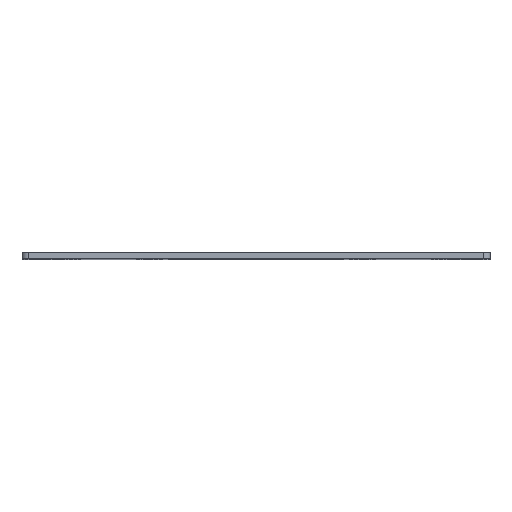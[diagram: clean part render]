
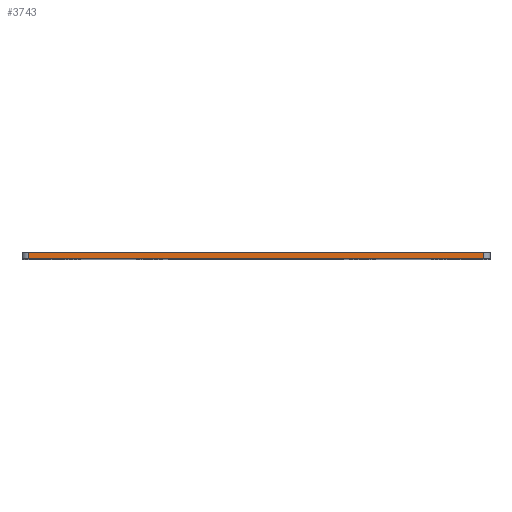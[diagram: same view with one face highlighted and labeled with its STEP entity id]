
A CAD part, top view. The second image highlights one B-rep face of the part: STEP entity #3743.
In plain terms, the highlighted planar face has unit normal (0, 0, 1).
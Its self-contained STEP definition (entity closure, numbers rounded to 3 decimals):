
#129 = VERTEX_POINT ( 'NONE', #2190 ) ;
#219 = DIRECTION ( 'NONE',  ( -1., 0., 0. ) ) ;
#234 = VECTOR ( 'NONE', #219, 1000. ) ;
#247 = VERTEX_POINT ( 'NONE', #283 ) ;
#283 = CARTESIAN_POINT ( 'NONE',  ( 54.3, -6.65, 55. ) ) ;
#349 = LINE ( 'NONE', #1298, #2548 ) ;
#408 = EDGE_CURVE ( 'NONE', #247, #1900, #2002, .T. ) ;
#663 = CARTESIAN_POINT ( 'NONE',  ( 54.3, -6.65, 55. ) ) ;
#961 = ORIENTED_EDGE ( 'NONE', *, *, #1364, .T. ) ;
#982 = DIRECTION ( 'NONE',  ( 0., 1., 0. ) ) ;
#1042 = LINE ( 'NONE', #1598, #234 ) ;
#1141 = ORIENTED_EDGE ( 'NONE', *, *, #408, .T. ) ;
#1230 = DIRECTION ( 'NONE',  ( -1., 0., 0. ) ) ;
#1298 = CARTESIAN_POINT ( 'NONE',  ( -52.7, -6.65, 55. ) ) ;
#1326 = EDGE_CURVE ( 'NONE', #247, #3104, #1042, .T. ) ;
#1364 = EDGE_CURVE ( 'NONE', #1900, #129, #1408, .T. ) ;
#1408 = LINE ( 'NONE', #3192, #3561 ) ;
#1476 = PLANE ( 'NONE',  #3036 ) ;
#1598 = CARTESIAN_POINT ( 'NONE',  ( 0., -6.65, 55. ) ) ;
#1663 = DIRECTION ( 'NONE',  ( 0., -1., 0. ) ) ;
#1715 = EDGE_LOOP ( 'NONE', ( #1141, #961, #2719, #3162 ) ) ;
#1813 = CARTESIAN_POINT ( 'NONE',  ( -52.7, -6.65, 55. ) ) ;
#1900 = VERTEX_POINT ( 'NONE', #2396 ) ;
#2002 = LINE ( 'NONE', #663, #3254 ) ;
#2190 = CARTESIAN_POINT ( 'NONE',  ( -52.7, -5.15, 55. ) ) ;
#2396 = CARTESIAN_POINT ( 'NONE',  ( 54.3, -5.15, 55. ) ) ;
#2548 = VECTOR ( 'NONE', #1663, 1000. ) ;
#2719 = ORIENTED_EDGE ( 'NONE', *, *, #2864, .T. ) ;
#2813 = FACE_OUTER_BOUND ( 'NONE', #1715, .T. ) ;
#2864 = EDGE_CURVE ( 'NONE', #129, #3104, #349, .T. ) ;
#3036 = AXIS2_PLACEMENT_3D ( 'NONE', #3753, #3687, #1230 ) ;
#3104 = VERTEX_POINT ( 'NONE', #1813 ) ;
#3162 = ORIENTED_EDGE ( 'NONE', *, *, #1326, .F. ) ;
#3192 = CARTESIAN_POINT ( 'NONE',  ( 0., -5.15, 55. ) ) ;
#3254 = VECTOR ( 'NONE', #982, 1000. ) ;
#3375 = DIRECTION ( 'NONE',  ( -1., 0., 0. ) ) ;
#3561 = VECTOR ( 'NONE', #3375, 1000. ) ;
#3687 = DIRECTION ( 'NONE',  ( 0., 0., -1. ) ) ;
#3743 = ADVANCED_FACE ( 'NONE', ( #2813 ), #1476, .F. ) ;
#3753 = CARTESIAN_POINT ( 'NONE',  ( -54.2, -6.65, 55. ) ) ;
